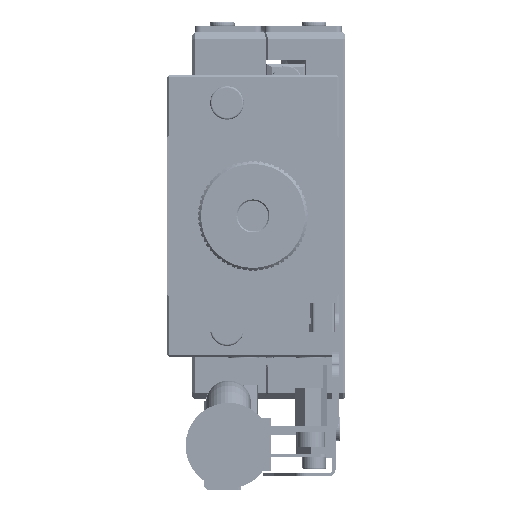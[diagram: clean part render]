
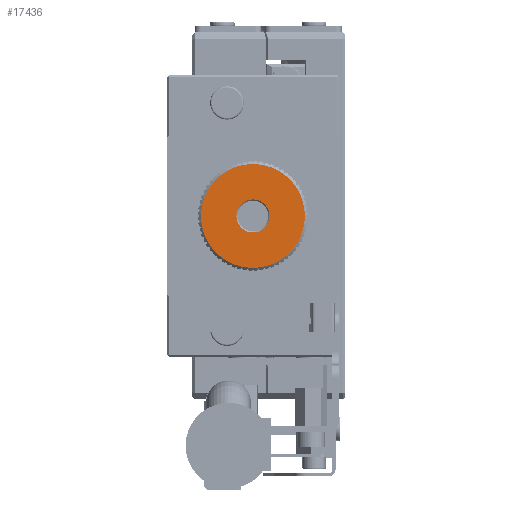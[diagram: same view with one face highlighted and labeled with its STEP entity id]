
A CAD part, front view. The second image highlights one B-rep face of the part: STEP entity #17436.
In plain terms, the highlighted planar face has unit normal (0, -1, 0) as drawn and (0, 0, 1) by its records, which use the part's own axes.
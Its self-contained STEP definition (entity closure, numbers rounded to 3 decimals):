
#8554 = AXIS2_PLACEMENT_3D ( 'NONE', #158785, #145431, #45452 ) ;
#12742 = VERTEX_POINT ( 'NONE', #93161 ) ;
#17436 = ADVANCED_FACE ( 'NONE', ( #163497, #49322 ), #100173, .T. ) ;
#19120 = CIRCLE ( 'NONE', #8554, 8.5 ) ;
#19862 = CARTESIAN_POINT ( 'NONE',  ( 0., 0., 9.5 ) ) ;
#24161 = CIRCLE ( 'NONE', #101431, 8.5 ) ;
#24348 = DIRECTION ( 'NONE',  ( 1., 0., 0. ) ) ;
#25040 = VERTEX_POINT ( 'NONE', #142509 ) ;
#32763 = DIRECTION ( 'NONE',  ( 1., 0., 0. ) ) ;
#35671 = DIRECTION ( 'NONE',  ( 1., 0., 0. ) ) ;
#37721 = CARTESIAN_POINT ( 'NONE',  ( 0., 0., 9.5 ) ) ;
#39376 = DIRECTION ( 'NONE',  ( 0., 0., -1. ) ) ;
#44255 = AXIS2_PLACEMENT_3D ( 'NONE', #161113, #82773, #32763 ) ;
#45452 = DIRECTION ( 'NONE',  ( 1., 0., 0. ) ) ;
#48024 = CIRCLE ( 'NONE', #50621, 2.7 ) ;
#49322 = FACE_OUTER_BOUND ( 'NONE', #79805, .T. ) ;
#50621 = AXIS2_PLACEMENT_3D ( 'NONE', #37721, #39376, #24348 ) ;
#65075 = DIRECTION ( 'NONE',  ( 0., 0., 1. ) ) ;
#69711 = ORIENTED_EDGE ( 'NONE', *, *, #156844, .T. ) ;
#71741 = AXIS2_PLACEMENT_3D ( 'NONE', #77549, #65075, #127593 ) ;
#74579 = EDGE_CURVE ( 'NONE', #138812, #12742, #19120, .T. ) ;
#75843 = EDGE_LOOP ( 'NONE', ( #89889, #128842 ) ) ;
#77549 = CARTESIAN_POINT ( 'NONE',  ( 0., 0., 9.5 ) ) ;
#79805 = EDGE_LOOP ( 'NONE', ( #116984, #69711 ) ) ;
#82773 = DIRECTION ( 'NONE',  ( 0., 0., -1. ) ) ;
#84812 = EDGE_CURVE ( 'NONE', #25040, #97293, #132132, .T. ) ;
#89889 = ORIENTED_EDGE ( 'NONE', *, *, #109830, .T. ) ;
#90472 = CARTESIAN_POINT ( 'NONE',  ( 2.7, 0., 9.5 ) ) ;
#93161 = CARTESIAN_POINT ( 'NONE',  ( 8.5, 0., 9.5 ) ) ;
#97293 = VERTEX_POINT ( 'NONE', #90472 ) ;
#100173 = PLANE ( 'NONE',  #71741 ) ;
#101431 = AXIS2_PLACEMENT_3D ( 'NONE', #19862, #135713, #35671 ) ;
#109830 = EDGE_CURVE ( 'NONE', #97293, #25040, #48024, .T. ) ;
#116984 = ORIENTED_EDGE ( 'NONE', *, *, #74579, .T. ) ;
#127593 = DIRECTION ( 'NONE',  ( 1., 0., 0. ) ) ;
#128842 = ORIENTED_EDGE ( 'NONE', *, *, #84812, .T. ) ;
#132132 = CIRCLE ( 'NONE', #44255, 2.7 ) ;
#135713 = DIRECTION ( 'NONE',  ( 0., 0., 1. ) ) ;
#138812 = VERTEX_POINT ( 'NONE', #162295 ) ;
#142509 = CARTESIAN_POINT ( 'NONE',  ( -2.7, 0., 9.5 ) ) ;
#145431 = DIRECTION ( 'NONE',  ( 0., 0., 1. ) ) ;
#156844 = EDGE_CURVE ( 'NONE', #12742, #138812, #24161, .T. ) ;
#158785 = CARTESIAN_POINT ( 'NONE',  ( 0., 0., 9.5 ) ) ;
#161113 = CARTESIAN_POINT ( 'NONE',  ( 0., 0., 9.5 ) ) ;
#162295 = CARTESIAN_POINT ( 'NONE',  ( -8.5, 0., 9.5 ) ) ;
#163497 = FACE_BOUND ( 'NONE', #75843, .T. ) ;
